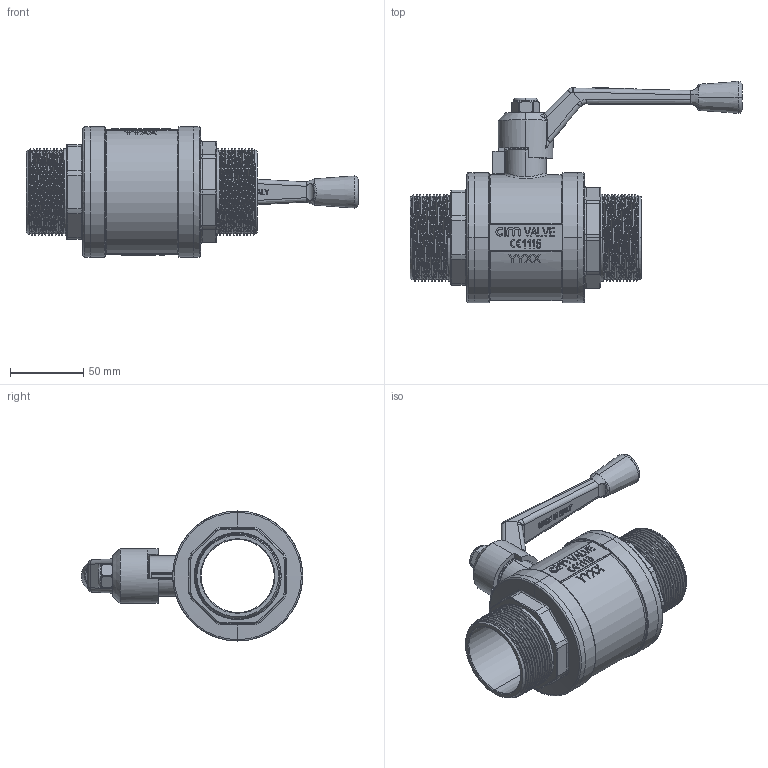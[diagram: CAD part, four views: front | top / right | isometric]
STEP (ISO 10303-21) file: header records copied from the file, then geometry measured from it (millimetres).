
FILE_DESCRIPTION (( 'STEP AP203' ), '1' );
FILE_NAME ('217850.STEP', '2016-09-28T13:27:04', ( '' ), ( '' ), 'SwSTEP 2.0', 'SolidWorks 2016', '' );
FILE_SCHEMA (( 'CONFIG_CONTROL_DESIGN' ));
Length unit declared in the file: millimetre
Products named in the file (1): 217850
Bounding box: 227.2 x 151.51 x 89 mm (x, y, z)
Volume: 296286.1 mm3; surface area: 129198.4 mm2
Topology: 19 solids, 19 shells, 1174 faces, 3090 edges, 2020 vertices
Faces by surface type: plane 586, cylinder 273, bspline 250, cone 65
Entity records: 55172 total; most frequent: CARTESIAN_POINT 28770, ORIENTED_EDGE 6168, DIRECTION 4446, EDGE_CURVE 3084, VERTEX_POINT 2020, LINE 1626, VECTOR 1626, AXIS2_PLACEMENT_3D 1410
